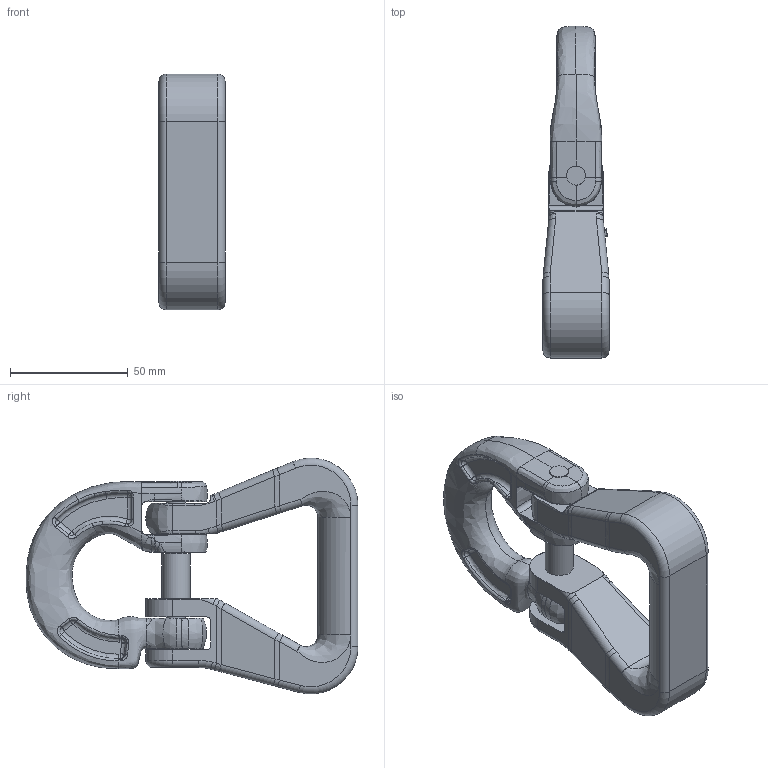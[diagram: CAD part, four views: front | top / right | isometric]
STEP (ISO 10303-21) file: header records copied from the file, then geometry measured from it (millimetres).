
FILE_DESCRIPTION(/* description */ (''),/* implementation_level */ '2;1');
FILE_NAME(/* name */ 'CARW 13 Kundenmodell',/* time_stamp */ '2010-01-11T09:43:34+01:00',/* author */ (''),/* organization */ (''),/* preprocessor_version */ 'ST-DEVELOPER v9',/* originating_system */ 'UGS - NX 4.0',/* authorisation */ '');
FILE_SCHEMA (('AUTOMOTIVE_DESIGN { 1 0 10303 214 1 1 1 1 }'));
Length unit declared in the file: millimetre
Products named in the file (1): ritE0872jot
Bounding box: 28 x 140.77 x 99.9 mm (x, y, z)
Volume: 153919.7 mm3; surface area: 38456 mm2
Topology: 4 solids, 4 shells, 467 faces, 1193 edges, 737 vertices
Faces by surface type: bspline 169, plane 106, cylinder 94, extrusion 46, torus 34, cone 16, sphere 2
Full cylindrical faces by diameter (mm): 8 x8, 12 x1
Entity records: 22855 total; most frequent: CARTESIAN_POINT 13221, ORIENTED_EDGE 2350, DIRECTION 1438, EDGE_CURVE 1175, VERTEX_POINT 732, B_SPLINE_CURVE_WITH_KNOTS 590, AXIS2_PLACEMENT_3D 534, EDGE_LOOP 497
